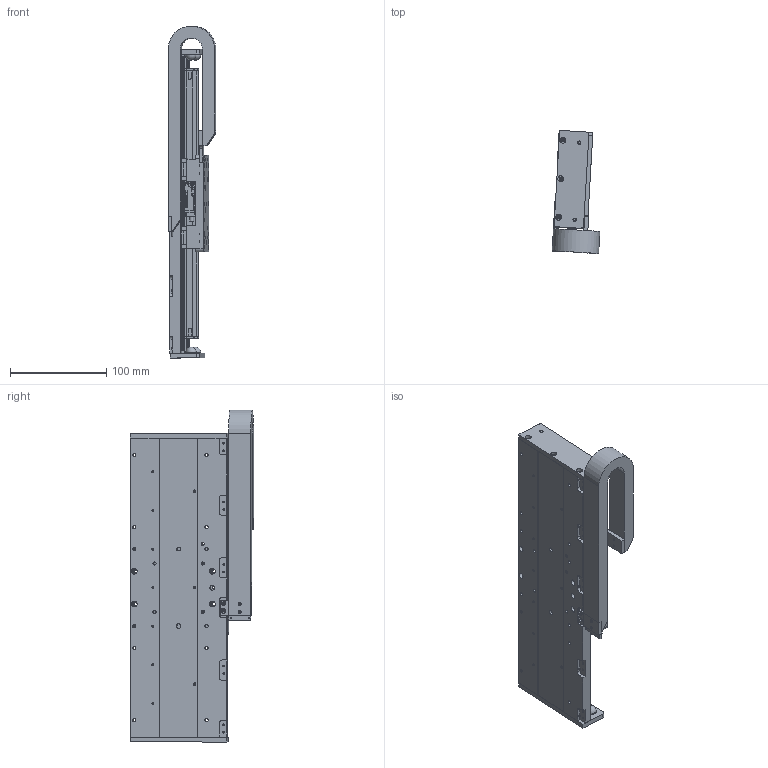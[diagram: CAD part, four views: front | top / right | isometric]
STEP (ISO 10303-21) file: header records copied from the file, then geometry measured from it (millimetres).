
FILE_DESCRIPTION(/* description */ ('MSR100 BASE'),/* implementation_level */ '2;1');
FILE_NAME(/* name */ 'I:\FY15 Projects\MSR\MSR100\Web Step Models\mSR100L-200XLSXXXXXXCM13.stp',/* time_stamp */ '2015-02-18T13:14:48-05:00',/* author */ ('BF20108'),/* organization */ (''),/* preprocessor_version */ 'ST-DEVELOPER v15.2',/* originating_system */ 'Autodesk Inventor 2014',/* authorisation */ '');
FILE_SCHEMA (('AUTOMOTIVE_DESIGN { 1 0 10303 214 3 1 1 }'));
Products named in the file (18): 102-5710-05; 003-3562-37; 102-5702-04; ml18-120m-n; ml18-80m-n; 102-5703-01; 102-5705-01; 002-3740-05; 102-5701; 003-3561; ML18-3E; 003-5000; 002-3740-short-carriage-assy; mx100-mcb; mx100-scb; e045-16-018-carrier-04; 002-3740-cbl-carr-sc-04; 002-3740
Bounding box: 49.52 x 127.64 x 344.12 mm (x, y, z)
Volume: 578102.8 mm3; surface area: 278115.2 mm2
Topology: 24 solids, 25 shells, 2354 faces, 6367 edges, 4112 vertices
Faces by surface type: plane 1243, cylinder 828, cone 159, torus 112, bspline 8, sphere 4
Full cylindrical faces by diameter (mm): 0.5 x8, 1 x4, 1.567 x75, 1.588 x2, 2.007 x12, 2.013 x11, 2.135 x4, 2.4 x42, 2.459 x21, 2.5 x20, 2.642 x4, 2.75 x1, 3 x21, 3.242 x15, 3.4 x25, 3.505 x4, 4 x4, 4.17 x2, 4.2 x43, 4.5 x18, 5 x8, 5.08 x2, 6 x29, 11.176 x4
Entity records: 56015 total; most frequent: CARTESIAN_POINT 10639, DIRECTION 9403, ORIENTED_EDGE 8778, EDGE_CURVE 4377, AXIS2_PLACEMENT_3D 3298, VERTEX_POINT 3041, LINE 2807, VECTOR 2807
